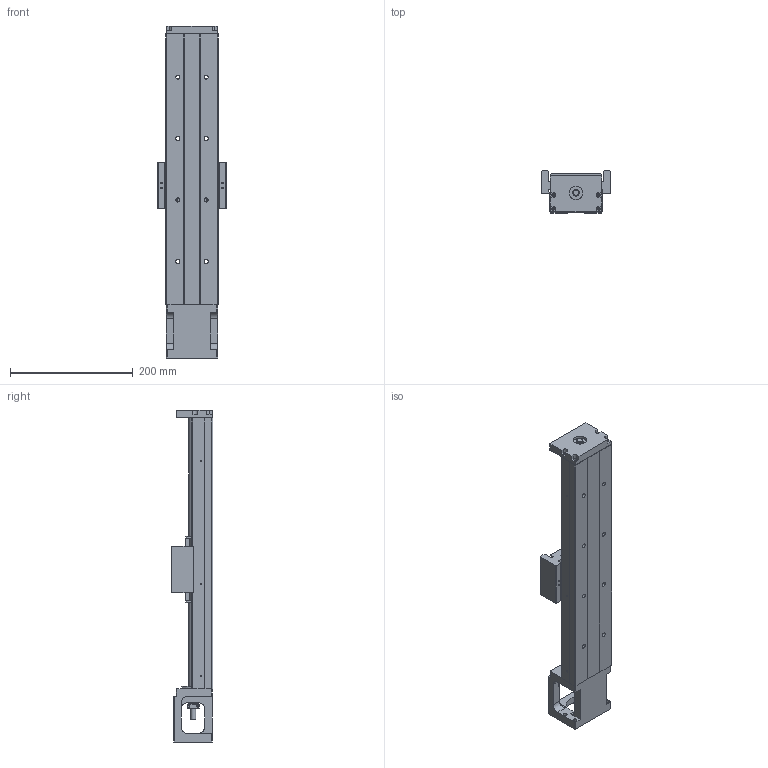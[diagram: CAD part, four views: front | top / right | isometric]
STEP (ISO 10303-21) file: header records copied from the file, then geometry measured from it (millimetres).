
FILE_DESCRIPTION(/* description */ (''),/* implementation_level */ '2;1');
FILE_NAME(/* name */ '46L-440.stp',/* time_stamp */ '2019-09-05T13:22:24+08:00',/* author */ (''),/* organization */ (''),/* preprocessor_version */ 'ST-DEVELOPER v16',/* originating_system */ 'SIEMENS PLM Software NX 10.0',/* authorisation */ '');
FILE_SCHEMA (('AP203_CONFIGURATION_CONTROLLED_3D_DESIGN_OF_MECHANICAL_PARTS_AND_ASSEMBLIES_MIM_LF { 1 0 10303 403 2 1 2}'));
Length unit declared in the file: millimetre
Products named in the file (1): 0154B620C536ce5x
Bounding box: 112 x 68 x 540 mm (x, y, z)
Volume: 1355583.7 mm3; surface area: 287274.3 mm2
Topology: 6 solids, 14 shells, 661 faces, 1722 edges, 1133 vertices
Faces by surface type: plane 324, cylinder 233, cone 55, bspline 41, torus 8
Full cylindrical faces by diameter (mm): 2.11 x4, 2.15 x6, 2.42 x8, 2.5 x4, 3 x6, 3.2 x4, 3.3 x12, 3.4 x8, 4.2 x4, 4.5 x8, 5 x14, 6 x8, 6.35 x2, 6.6 x8, 8 x1, 9.6 x1, 10 x3, 11 x8, 12 x1, 14.95 x2, 15 x1, 16 x2, 22 x3, 27.5 x1, 44 x1, 50 x1
Entity records: 27827 total; most frequent: CARTESIAN_POINT 12765, ORIENTED_EDGE 2970, DIRECTION 2925, EDGE_CURVE 1485, AXIS2_PLACEMENT_3D 1068, VERTEX_POINT 1066, EDGE_LOOP 929, LINE 789
